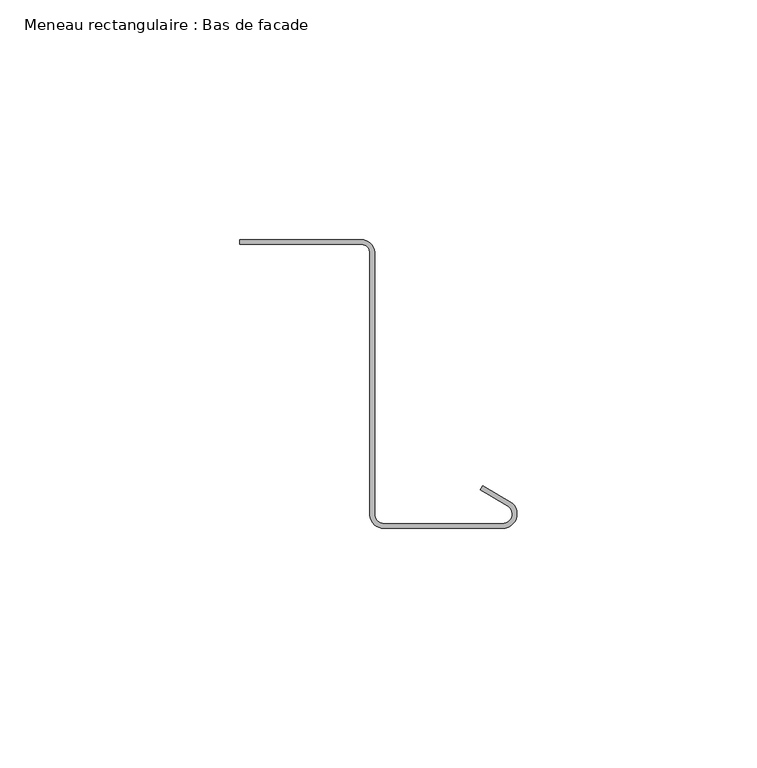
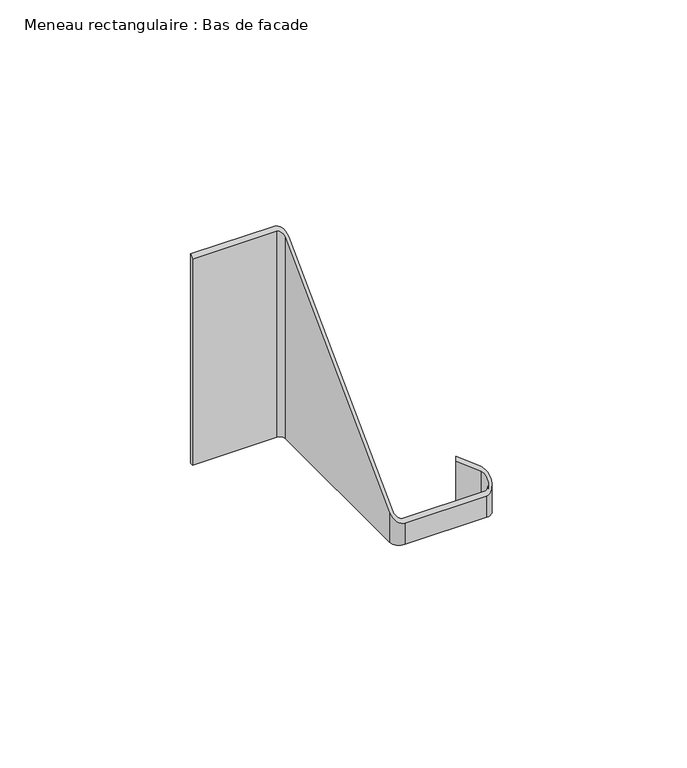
"""IFC4 building model written with IfcOpenShell, lengths in millimetres: member geometry, Meneau rectangulaire : Bas de facade."""

from ifc_helpers import new_model, si_unit, frame, origin, place, context, project, spatial, polyline, circle_curve, ellipse_curve, source, transform, mapped, element, save
from ifc_brep_helpers import plane_surface, cylinder_surface, revolved_surface, advanced_brep


def meneau_rectangulaire_bas_de_facade_d3af828c(model_context):
    return source(origin(), model_context, "Body", "AdvancedBrep", [
        advanced_brep(
        [(-32.4584179, 2.9588923, -64.0), (-29.7143802, 0.3898824, -64.0), (-29.7143802, -54.5495817, -64.0), (-27.735368, -56.2605998, -64.0), (-3.0, -56.2605998, -64.0), (-2.0, -52.528549, -64.0), (-7.6638061, -49.258549, -64.0), (-7.1638061, -48.3925235, -64.0), (-1.5, -51.6625235, -64.0), (-3.0, -57.2605998, -64.0), (-27.735368, -57.2605998, -64.0), (-30.7239521, -54.522067, -64.0), (-30.7239521, 0.4415475, -64.0), (-32.4584179, 1.9588923, -64.0), (-57.8548383, 1.9588923, -64.0), (-57.8548383, 2.9588923, -64.0), (-57.8548383, 2.9588923, 2.9588923), (-32.4584179, 2.9588923, 2.9588923), (-57.8548383, 1.9588923, 1.9588923), (-32.4584179, 1.9588923, 1.9588923), (-30.7239521, 0.4415475, 0.4415475), (-30.7239521, -54.522067, -54.522067), (-27.735368, -57.2605998, -57.2605998), (-3.0, -57.2605998, -57.2605998), (-1.5, -51.6625235, -51.6625235), (-7.1638061, -48.3925235, -48.3925235), (-7.6638061, -49.258549, -49.258549), (-2.0, -52.528549, -52.528549), (-3.0, -56.2605998, -56.2605998), (-27.735368, -56.2605998, -56.2605998), (-29.7143802, -54.5495817, -54.5495817), (-29.7143802, 0.3898824, 0.3898824)],
        [
            (0, 1, circle_curve(frame((-32.4584179, 0.2088923, -64.0), z_axis=(0.0, 0.0, -1.0), x_axis=(0.0, 1.0, 0.0)), 2.75)),
            (1, 2),
            (2, 3, circle_curve(frame((-27.735368, -54.2605998, -64.0), z_axis=(0.0, 0.0, 1.0), x_axis=(-0.9961946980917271, -0.08715574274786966, 0.0)), 2.0)),
            (3, 4),
            (4, 5, circle_curve(frame((-3.0, -54.2605998, -64.0), z_axis=(0.0, 0.0, 1.0), x_axis=(0.0, -1.0, 0.0)), 2.0)),
            (5, 6),
            (6, 7),
            (7, 8),
            (8, 9, circle_curve(frame((-3.0, -54.2605998, -64.0), z_axis=(0.0, 0.0, -1.0), x_axis=(0.0, -1.0, 0.0)), 3.0)),
            (9, 10),
            (10, 11, circle_curve(frame((-27.735368, -54.2605998, -64.0), z_axis=(0.0, 0.0, -1.0), x_axis=(-0.9961946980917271, -0.08715574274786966, 0.0)), 3.0)),
            (11, 12),
            (12, 13, circle_curve(frame((-32.4584179, 0.2088923, -64.0), z_axis=(0.0, 0.0, 1.0), x_axis=(0.0, 1.0, 0.0)), 1.75)),
            (13, 14),
            (14, 15),
            (15, 0),
            (16, 17),
            (17, 0),
            (15, 16),
            (18, 16),
            (14, 18),
            (19, 18),
            (13, 19),
            (20, 19, ellipse_curve(frame((-32.4584179, 0.2088923, 0.2088923), z_axis=(0.0, -0.7071067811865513, 0.7071067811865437), x_axis=(0.0, -0.7071067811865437, -0.7071067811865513)), 2.4748737, 1.75)),
            (12, 20),
            (21, 20),
            (11, 21),
            (22, 21, ellipse_curve(frame((-27.735368, -54.2605998, -54.2605998), z_axis=(0.0, 0.7071067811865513, -0.7071067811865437), x_axis=(0.0, 0.7071067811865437, 0.7071067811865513)), 4.2426407, 3.0)),
            (10, 22),
            (23, 22),
            (9, 23),
            (24, 23, ellipse_curve(frame((-3.0, -54.2605998, -54.2605998), z_axis=(0.0, 0.7071067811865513, -0.7071067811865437), x_axis=(0.0, 0.7071067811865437, 0.7071067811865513)), 4.2426407, 3.0)),
            (8, 24),
            (25, 24),
            (7, 25),
            (26, 25),
            (6, 26),
            (27, 26),
            (5, 27),
            (28, 27, ellipse_curve(frame((-3.0, -54.2605998, -54.2605998), z_axis=(0.0, -0.7071067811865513, 0.7071067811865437), x_axis=(0.0, -0.7071067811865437, -0.7071067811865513)), 2.8284271, 2.0)),
            (4, 28),
            (29, 28),
            (3, 29),
            (30, 29, ellipse_curve(frame((-27.735368, -54.2605998, -54.2605998), z_axis=(0.0, -0.7071067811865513, 0.7071067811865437), x_axis=(0.0, -0.7071067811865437, -0.7071067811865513)), 2.8284271, 2.0)),
            (2, 30),
            (31, 30),
            (1, 31),
            (17, 31, ellipse_curve(frame((-32.4584179, 0.2088923, 0.2088923), z_axis=(0.0, 0.7071067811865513, -0.7071067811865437), x_axis=(0.0, 0.7071067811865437, 0.7071067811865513)), 3.8890873, 2.75)),
        ],
        [
            plane_surface(frame((0.0, -63.8351035, -64.0), z_axis=(0.0, 0.0, -1.0), x_axis=(-1.0, 0.0, 0.0))),
            plane_surface(frame((-32.4584179, 2.9588923, 0.0), z_axis=(0.0, 1.0, 0.0), x_axis=(0.0, 0.0, -1.0))),
            plane_surface(frame((-57.8548383, 2.9588923, 0.0), z_axis=(-1.0, 0.0, 0.0), x_axis=(0.0, 0.0, -1.0))),
            plane_surface(frame((-57.8548383, 1.9588923, 0.0), z_axis=(0.0, -1.0, 0.0), x_axis=(0.0, 0.0, -1.0))),
            revolved_surface(polyline([(-32.4584179, 1.9588923, -64.0), (-32.4584179, 1.9588923, 1.9588923)]), (-32.4584179, 0.2088923, 0.0), (0.0, 0.0, -1.0)),
            plane_surface(frame((-30.7239521, 0.4415475, 0.0), z_axis=(-1.0, 0.0, 0.0), x_axis=(0.0, 0.0, -1.0))),
            cylinder_surface(frame((-27.735368, -54.2605998, 0.0), z_axis=(0.0, 0.0, 1.0000000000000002), x_axis=(-0.9961946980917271, -0.08715574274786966, 0.0)), 3.0),
            plane_surface(frame((-27.735368, -57.2605998, 0.0), z_axis=(0.0, -1.0, 0.0), x_axis=(0.0, 0.0, -1.0))),
            cylinder_surface(frame((-3.0, -54.2605998, 0.0), z_axis=(0.0, 0.0, 1.0), x_axis=(0.0, -1.0, 0.0)), 3.0),
            plane_surface(frame((-1.5, -51.6625235, 0.0), z_axis=(0.5000000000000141, 0.8660254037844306, 0.0), x_axis=(0.0, 0.0, -1.0))),
            plane_surface(frame((-7.1638061, -48.3925235, 0.0), z_axis=(-0.8660254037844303, 0.5000000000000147, 0.0), x_axis=(0.0, 0.0, -1.0))),
            plane_surface(frame((-7.6638061, -49.258549, 0.0), z_axis=(-0.500000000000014, -0.8660254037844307, 0.0), x_axis=(0.0, 0.0, -1.0))),
            revolved_surface(polyline([(-3.0, -56.2605998, -64.0), (-3.0, -56.2605998, -52.26059981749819)]), (-3.0, -54.2605998, 0.0), (0.0, 0.0, -1.0)),
            plane_surface(frame((-3.0, -56.2605998, 0.0), z_axis=(0.0, 1.0, 0.0), x_axis=(0.0, 0.0, -1.0))),
            revolved_surface(polyline([(-29.727757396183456, -54.434911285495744, -64.00000000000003), (-29.727757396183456, -54.434911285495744, -52.26059981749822)]), (-27.735368, -54.2605998, 0.0), (0.0, 0.0, -1.0000000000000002)),
            plane_surface(frame((-29.7143802, -54.5495817, 0.0), z_axis=(1.0, 0.0, 0.0), x_axis=(0.0, 0.0, -1.0))),
            cylinder_surface(frame((-32.4584179, 0.2088923, 0.0), z_axis=(0.0, 0.0, 1.0), x_axis=(0.0, 1.0, 0.0)), 2.75),
            plane_surface(frame((304.8, 0.0, 0.0), z_axis=(0.0, -0.7071067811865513, 0.7071067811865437), x_axis=(0.0, -0.7071067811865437, -0.7071067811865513))),
        ],
        [
            (0, [[1, 2, 3, 4, 5, 6, 7, 8, 9, 10, 11, 12, 13, 14, 15, 16]]),
            (1, [[17, 18, -16, 19]]),
            (2, [[20, -19, -15, 21]]),
            (3, [[22, -21, -14, 23]]),
            (4, [[24, -23, -13, 25]]),
            (5, [[26, -25, -12, 27]]),
            (6, [[28, -27, -11, 29]]),
            (7, [[30, -29, -10, 31]]),
            (8, [[32, -31, -9, 33]]),
            (9, [[34, -33, -8, 35]]),
            (10, [[36, -35, -7, 37]]),
            (11, [[38, -37, -6, 39]]),
            (12, [[40, -39, -5, 41]]),
            (13, [[42, -41, -4, 43]]),
            (14, [[44, -43, -3, 45]]),
            (15, [[46, -45, -2, 47]]),
            (16, [[48, -47, -1, -18]]),
            (17, [[-17, -20, -22, -24, -26, -28, -30, -32, -34, -36, -38, -40, -42, -44, -46, -48]]),
        ],
    ),
    ])


if __name__ == "__main__":
    model = new_model("IFC4")
    model_context = context("Model", 3, world=origin())
    ifc_project = project(units=[si_unit("LENGTHUNIT", "METRE", prefix="MILLI")], contexts=[model_context])
    site = spatial("IfcSite", under=ifc_project)
    building = spatial("IfcBuilding", under=site)
    placement = place(None, origin())
    meneau_rectangulaire_bas_de_facade_shape = meneau_rectangulaire_bas_de_facade_d3af828c(model_context)
    element("IfcMember", 1, ObjectType="Meneau rectangulaire : Bas de facade", at=placement, inside=building, context=model_context, shape_type="MappedRepresentation", body=[
        mapped(meneau_rectangulaire_bas_de_facade_shape, transform((0.0, 0.0, 0.0), x_axis=(1.0, 0.0, 0.0), y_axis=(0.0, 1.0, 0.0), z_axis=(0.0, 0.0, 1.0))),
    ])
    save(model, "model.ifc")
